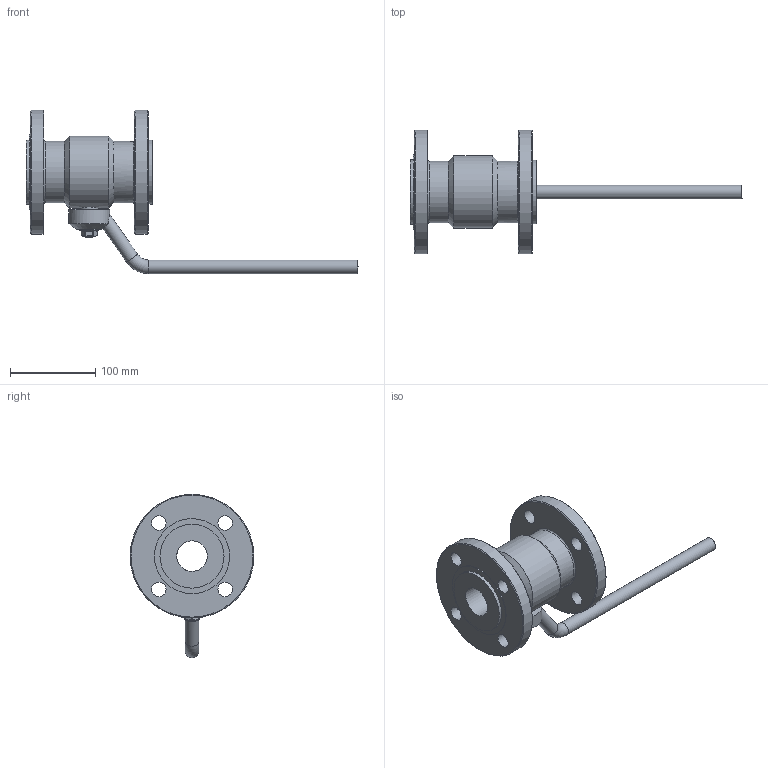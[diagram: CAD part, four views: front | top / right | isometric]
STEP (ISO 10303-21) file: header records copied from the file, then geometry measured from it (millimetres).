
FILE_DESCRIPTION(('STEP AP203'), '1');
FILE_NAME('ZARD 040.040.22.P.stp', '2013-12-06T06:49:01', ('User'), ('Computer'), 'ASCON STEP Converter 1.3', 'Kompas 3D', '');
FILE_SCHEMA(('CONFIG_CONTROL_DESIGN','SUPPORT_RESOURCE_SCHEMA'));
Length unit declared in the file: millimetre
Products named in the file (1): 90
Bounding box: 389.01 x 145 x 191.5 mm (x, y, z)
Volume: 960357.4 mm3; surface area: 150991.7 mm2
Topology: 1 solids, 2 shells, 165 faces, 383 edges, 240 vertices
Faces by surface type: plane 76, cylinder 59, cone 20, torus 10
Full cylindrical faces by diameter (mm): 6 x1, 10 x2, 16 x3, 16.1 x1, 17 x8, 21.8 x1, 22 x2, 24.3 x1, 24.5 x1, 36 x2, 48 x1, 58.4 x1, 72 x2, 75 x2, 84.5 x1, 88 x2, 145 x2
Entity records: 6040 total; most frequent: CARTESIAN_POINT 2098, DIRECTION 835, ORIENTED_EDGE 766, EDGE_CURVE 383, AXIS2_PLACEMENT_3D 327, VERTEX_POINT 240, EDGE_LOOP 205, LINE 181
